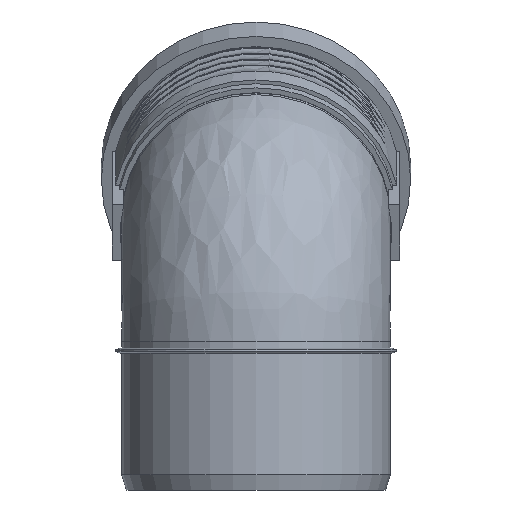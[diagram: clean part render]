
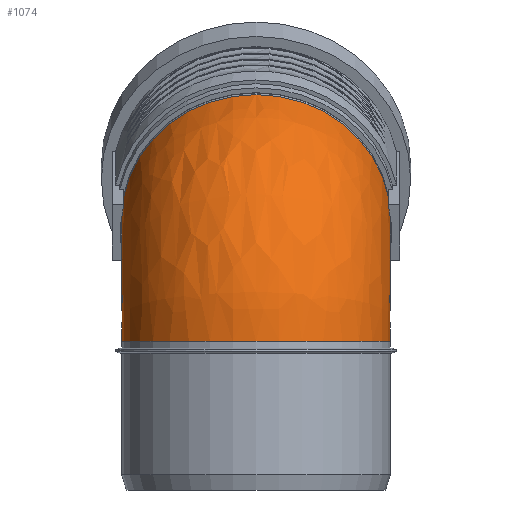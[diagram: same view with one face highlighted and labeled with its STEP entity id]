
A CAD part, left-side view. The second image highlights one B-rep face of the part: STEP entity #1074.
In plain terms, the highlighted free-form (B-spline) face has degree [2, 2] with [9, 9] control points.
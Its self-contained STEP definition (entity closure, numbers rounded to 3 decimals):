
#142=(
BOUNDED_SURFACE()
B_SPLINE_SURFACE(2,2,((#1588,#1589,#1590,#1591,#1592,#1593,#1594,#1595,
#1596),(#1597,#1598,#1599,#1600,#1601,#1602,#1603,#1604,#1605),(#1606,#1607,
#1608,#1609,#1610,#1611,#1612,#1613,#1614),(#1615,#1616,#1617,#1618,#1619,
#1620,#1621,#1622,#1623),(#1624,#1625,#1626,#1627,#1628,#1629,#1630,#1631,
#1632),(#1633,#1634,#1635,#1636,#1637,#1638,#1639,#1640,#1641),(#1642,#1643,
#1644,#1645,#1646,#1647,#1648,#1649,#1650),(#1651,#1652,#1653,#1654,#1655,
#1656,#1657,#1658,#1659),(#1660,#1661,#1662,#1663,#1664,#1665,#1666,#1667,
#1668)),.UNSPECIFIED.,.T.,.T.,.F.)
B_SPLINE_SURFACE_WITH_KNOTS((3,2,2,2,3),(3,2,2,2,3),(-3.142,
-1.571,0.,1.571,3.142),(-3.142,
-1.571,0.,1.571,3.142),.UNSPECIFIED.)
GEOMETRIC_REPRESENTATION_ITEM()
RATIONAL_B_SPLINE_SURFACE(((1.,0.707,1.,0.707,1.,
0.707,1.,0.707,1.),(0.707,0.5,0.707,
0.5,0.707,0.5,0.707,0.5,0.707),(1.,
0.707,1.,0.707,1.,0.707,1.,0.707,
1.),(0.707,0.5,0.707,0.5,0.707,0.5,
0.707,0.5,0.707),(1.,0.707,1.,0.707,
1.,0.707,1.,0.707,1.),(0.707,0.5,0.707,
0.5,0.707,0.5,0.707,0.5,0.707),(1.,
0.707,1.,0.707,1.,0.707,1.,0.707,
1.),(0.707,0.5,0.707,0.5,0.707,0.5,
0.707,0.5,0.707),(1.,0.707,1.,0.707,
1.,0.707,1.,0.707,1.)))
REPRESENTATION_ITEM($)
SURFACE()
);
#260=FACE_OUTER_BOUND($,#331,.T.);
#331=EDGE_LOOP($,(#734,#735));
#425=CIRCLE($,#1158,80.125);
#426=CIRCLE($,#1159,80.125);
#480=VERTEX_POINT($,#1586);
#586=EDGE_CURVE($,#480,#480,#425,.T.);
#587=EDGE_CURVE($,#480,#480,#426,.T.);
#734=ORIENTED_EDGE($,*,*,#586,.T.);
#735=ORIENTED_EDGE($,*,*,#587,.F.);
#1074=ADVANCED_FACE($,(#260),#142,.F.);
#1158=AXIS2_PLACEMENT_3D($,#1587,#1307,#1308);
#1159=AXIS2_PLACEMENT_3D($,#1669,#1309,#1310);
#1307=DIRECTION('center_axis',(-0.924,0.,-0.383));
#1308=DIRECTION('ref_axis',(-0.383,0.,0.924));
#1309=DIRECTION('center_axis',(0.,0.,-1.));
#1310=DIRECTION('ref_axis',(-1.,0.,0.));
#1586=CARTESIAN_POINT('',(80.125,0.,88.74));
#1587=CARTESIAN_POINT('Origin',(49.462,0.,162.766));
#1588=CARTESIAN_POINT('Ctrl Pts',(80.125,0.,88.74));
#1589=CARTESIAN_POINT('Ctrl Pts',(80.125,0.,88.74));
#1590=CARTESIAN_POINT('Ctrl Pts',(80.125,0.,88.74));
#1591=CARTESIAN_POINT('Ctrl Pts',(80.125,0.,88.74));
#1592=CARTESIAN_POINT('Ctrl Pts',(80.125,0.,88.74));
#1593=CARTESIAN_POINT('Ctrl Pts',(80.125,0.,88.74));
#1594=CARTESIAN_POINT('Ctrl Pts',(80.125,0.,88.74));
#1595=CARTESIAN_POINT('Ctrl Pts',(80.125,0.,88.74));
#1596=CARTESIAN_POINT('Ctrl Pts',(80.125,0.,88.74));
#1597=CARTESIAN_POINT('Ctrl Pts',(80.125,-80.125,88.74));
#1598=CARTESIAN_POINT('Ctrl Pts',(80.125,-80.125,88.74));
#1599=CARTESIAN_POINT('Ctrl Pts',(80.125,-80.125,88.74));
#1600=CARTESIAN_POINT('Ctrl Pts',(80.125,-80.125,88.74));
#1601=CARTESIAN_POINT('Ctrl Pts',(80.125,-80.125,88.74));
#1602=CARTESIAN_POINT('Ctrl Pts',(80.125,-80.125,88.74));
#1603=CARTESIAN_POINT('Ctrl Pts',(80.125,-80.125,88.74));
#1604=CARTESIAN_POINT('Ctrl Pts',(80.125,-80.125,88.74));
#1605=CARTESIAN_POINT('Ctrl Pts',(80.125,-80.125,88.74));
#1606=CARTESIAN_POINT('Ctrl Pts',(80.125,-80.125,8.615));
#1607=CARTESIAN_POINT('Ctrl Pts',(0.,-80.125,8.615));
#1608=CARTESIAN_POINT('Ctrl Pts',(0.,-80.125,88.74));
#1609=CARTESIAN_POINT('Ctrl Pts',(0.,-80.125,168.865));
#1610=CARTESIAN_POINT('Ctrl Pts',(80.125,-80.125,168.865));
#1611=CARTESIAN_POINT('Ctrl Pts',(160.25,-80.125,168.865));
#1612=CARTESIAN_POINT('Ctrl Pts',(160.25,-80.125,88.74));
#1613=CARTESIAN_POINT('Ctrl Pts',(160.25,-80.125,8.615));
#1614=CARTESIAN_POINT('Ctrl Pts',(80.125,-80.125,8.615));
#1615=CARTESIAN_POINT('Ctrl Pts',(80.125,-80.125,-71.51));
#1616=CARTESIAN_POINT('Ctrl Pts',(-80.125,-80.125,-71.51));
#1617=CARTESIAN_POINT('Ctrl Pts',(-80.125,-80.125,88.74));
#1618=CARTESIAN_POINT('Ctrl Pts',(-80.125,-80.125,248.99));
#1619=CARTESIAN_POINT('Ctrl Pts',(80.125,-80.125,248.99));
#1620=CARTESIAN_POINT('Ctrl Pts',(240.375,-80.125,248.99));
#1621=CARTESIAN_POINT('Ctrl Pts',(240.375,-80.125,88.74));
#1622=CARTESIAN_POINT('Ctrl Pts',(240.375,-80.125,-71.51));
#1623=CARTESIAN_POINT('Ctrl Pts',(80.125,-80.125,-71.51));
#1624=CARTESIAN_POINT('Ctrl Pts',(80.125,0.,-71.51));
#1625=CARTESIAN_POINT('Ctrl Pts',(-80.125,0.,-71.51));
#1626=CARTESIAN_POINT('Ctrl Pts',(-80.125,0.,88.74));
#1627=CARTESIAN_POINT('Ctrl Pts',(-80.125,0.,248.99));
#1628=CARTESIAN_POINT('Ctrl Pts',(80.125,0.,248.99));
#1629=CARTESIAN_POINT('Ctrl Pts',(240.375,0.,248.99));
#1630=CARTESIAN_POINT('Ctrl Pts',(240.375,0.,88.74));
#1631=CARTESIAN_POINT('Ctrl Pts',(240.375,0.,-71.51));
#1632=CARTESIAN_POINT('Ctrl Pts',(80.125,0.,-71.51));
#1633=CARTESIAN_POINT('Ctrl Pts',(80.125,80.125,-71.51));
#1634=CARTESIAN_POINT('Ctrl Pts',(-80.125,80.125,-71.51));
#1635=CARTESIAN_POINT('Ctrl Pts',(-80.125,80.125,88.74));
#1636=CARTESIAN_POINT('Ctrl Pts',(-80.125,80.125,248.99));
#1637=CARTESIAN_POINT('Ctrl Pts',(80.125,80.125,248.99));
#1638=CARTESIAN_POINT('Ctrl Pts',(240.375,80.125,248.99));
#1639=CARTESIAN_POINT('Ctrl Pts',(240.375,80.125,88.74));
#1640=CARTESIAN_POINT('Ctrl Pts',(240.375,80.125,-71.51));
#1641=CARTESIAN_POINT('Ctrl Pts',(80.125,80.125,-71.51));
#1642=CARTESIAN_POINT('Ctrl Pts',(80.125,80.125,8.615));
#1643=CARTESIAN_POINT('Ctrl Pts',(0.,80.125,8.615));
#1644=CARTESIAN_POINT('Ctrl Pts',(0.,80.125,88.74));
#1645=CARTESIAN_POINT('Ctrl Pts',(0.,80.125,168.865));
#1646=CARTESIAN_POINT('Ctrl Pts',(80.125,80.125,168.865));
#1647=CARTESIAN_POINT('Ctrl Pts',(160.25,80.125,168.865));
#1648=CARTESIAN_POINT('Ctrl Pts',(160.25,80.125,88.74));
#1649=CARTESIAN_POINT('Ctrl Pts',(160.25,80.125,8.615));
#1650=CARTESIAN_POINT('Ctrl Pts',(80.125,80.125,8.615));
#1651=CARTESIAN_POINT('Ctrl Pts',(80.125,80.125,88.74));
#1652=CARTESIAN_POINT('Ctrl Pts',(80.125,80.125,88.74));
#1653=CARTESIAN_POINT('Ctrl Pts',(80.125,80.125,88.74));
#1654=CARTESIAN_POINT('Ctrl Pts',(80.125,80.125,88.74));
#1655=CARTESIAN_POINT('Ctrl Pts',(80.125,80.125,88.74));
#1656=CARTESIAN_POINT('Ctrl Pts',(80.125,80.125,88.74));
#1657=CARTESIAN_POINT('Ctrl Pts',(80.125,80.125,88.74));
#1658=CARTESIAN_POINT('Ctrl Pts',(80.125,80.125,88.74));
#1659=CARTESIAN_POINT('Ctrl Pts',(80.125,80.125,88.74));
#1660=CARTESIAN_POINT('Ctrl Pts',(80.125,0.,88.74));
#1661=CARTESIAN_POINT('Ctrl Pts',(80.125,0.,88.74));
#1662=CARTESIAN_POINT('Ctrl Pts',(80.125,0.,88.74));
#1663=CARTESIAN_POINT('Ctrl Pts',(80.125,0.,88.74));
#1664=CARTESIAN_POINT('Ctrl Pts',(80.125,0.,88.74));
#1665=CARTESIAN_POINT('Ctrl Pts',(80.125,0.,88.74));
#1666=CARTESIAN_POINT('Ctrl Pts',(80.125,0.,88.74));
#1667=CARTESIAN_POINT('Ctrl Pts',(80.125,0.,88.74));
#1668=CARTESIAN_POINT('Ctrl Pts',(80.125,0.,88.74));
#1669=CARTESIAN_POINT('Origin',(0.,0.,88.74));
